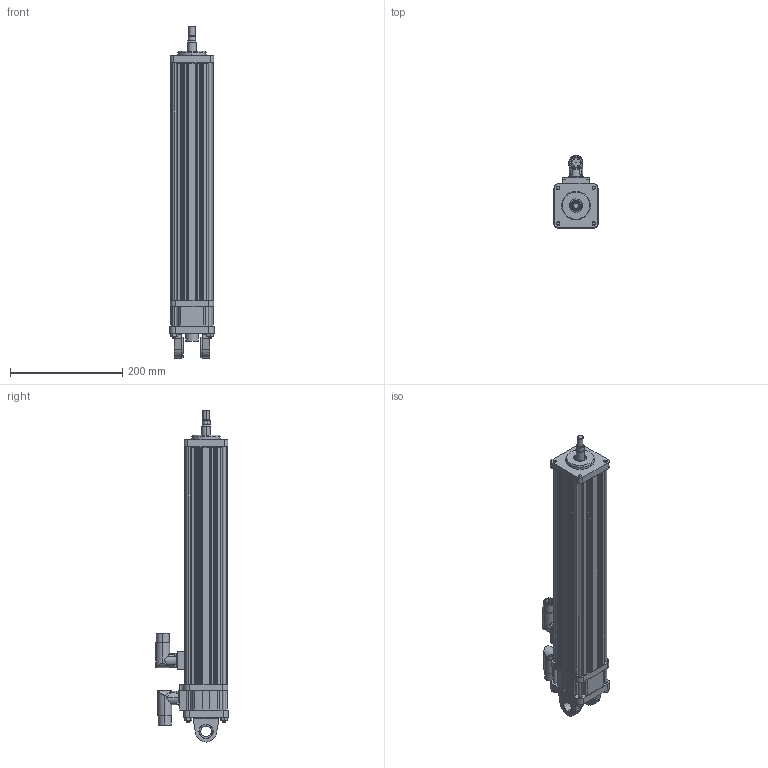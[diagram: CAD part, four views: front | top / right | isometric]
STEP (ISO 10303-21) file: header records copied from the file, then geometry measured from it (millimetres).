
FILE_DESCRIPTION (( 'STEP AP203' ), '1' );
FILE_NAME ('GSM30-14 inch Clevis, Euro Conn, M Rod.step', '2008-05-20T04:30:01', ( '' ), ( '' ), 'SwSTEP 2.0', 'SolidWorks 2008', '' );
FILE_SCHEMA (( 'CONFIG_CONTROL_DESIGN' ));
Length unit declared in the file: inch
Products named in the file (17): 10513; 11083; 10737; 23017; 11248; GSM30-14 inch Clevis, Euro Conn, M Rod; case_14"; MAIN ROD GSX30_M MAIN ROD -14"; 25610; End cap_Clevis, Euro; End Cap_27687-EURO; 26647; 20494; 19819; 12367; Tie Rod_11619-14"; 11247
Assembly tree (38 placements, depth 3):
  GSM30-14 inch Clevis, Euro Conn, M Rod
    Tie Rod_11619-14"  x4
    case_14"
    12367  x4
    11247  x4
    11248  x4
    MAIN ROD GSX30_M MAIN ROD -14"
    10513  x2
    19819
    25610
    11083
    23017
    End cap_Clevis, Euro
      26647
      12367  x8
      End Cap_27687-EURO
      20494
      10737  x2
Bounding box: 79.5 x 129.55 x 591.25 mm (x, y, z)
Volume: 1103712.6 mm3; surface area: 456719.7 mm2
Topology: 37 solids, 37 shells, 1059 faces, 2531 edges, 1593 vertices
Faces by surface type: cylinder 487, plane 353, cone 177, torus 42
Entity records: 25501 total; most frequent: CARTESIAN_POINT 4723, DIRECTION 4176, ORIENTED_EDGE 3606, EDGE_CURVE 1803, AXIS2_PLACEMENT_3D 1663, VERTEX_POINT 1165, EDGE_LOOP 888, CIRCLE 883
